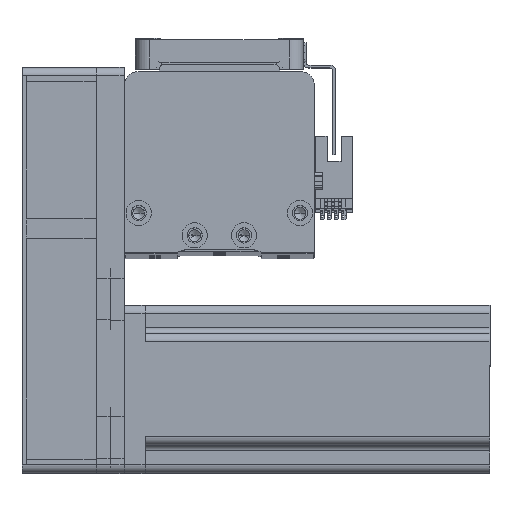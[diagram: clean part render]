
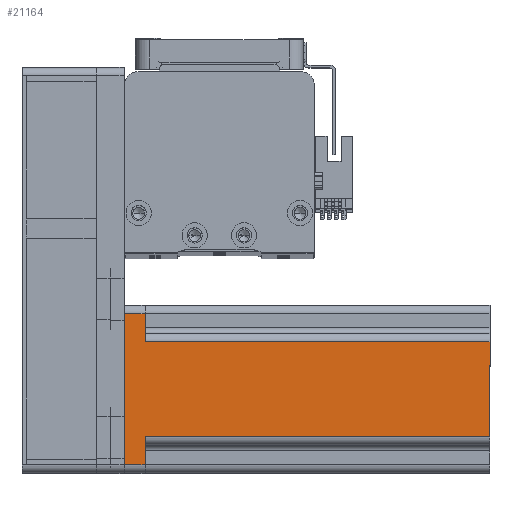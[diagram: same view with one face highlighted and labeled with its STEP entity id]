
A CAD part, top view. The second image highlights one B-rep face of the part: STEP entity #21164.
In plain terms, the highlighted planar face has unit normal (0, 0, 1) as drawn and (0, -1, 0) by its records, which use the part's own axes.
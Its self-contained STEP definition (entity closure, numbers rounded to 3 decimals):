
#1436 = VECTOR ( 'NONE', #1446, 1000. ) ;
#1446 = DIRECTION ( 'NONE',  ( 0., 0., -1. ) ) ;
#1545 = CARTESIAN_POINT ( 'NONE',  ( 17., -30., 130.7 ) ) ;
#2146 = ORIENTED_EDGE ( 'NONE', *, *, #36162, .T. ) ;
#2545 = DIRECTION ( 'NONE',  ( 0., 0., 1. ) ) ;
#3380 = EDGE_CURVE ( 'NONE', #18600, #46877, #11411, .T. ) ;
#4324 = VERTEX_POINT ( 'NONE', #32380 ) ;
#5630 = EDGE_CURVE ( 'NONE', #18600, #11989, #40462, .T. ) ;
#5777 = CARTESIAN_POINT ( 'NONE',  ( -27., -30., 7.5 ) ) ;
#5789 = VERTEX_POINT ( 'NONE', #13343 ) ;
#6695 = EDGE_LOOP ( 'NONE', ( #41665, #48220, #45562, #34044, #24130, #2146, #30839, #33787 ) ) ;
#7748 = CARTESIAN_POINT ( 'NONE',  ( 30., -30., 0. ) ) ;
#8832 = AXIS2_PLACEMENT_3D ( 'NONE', #39345, #16889, #43086 ) ;
#9033 = CARTESIAN_POINT ( 'NONE',  ( 20., -30., 7.5 ) ) ;
#10538 = VECTOR ( 'NONE', #23674, 1000. ) ;
#11411 = LINE ( 'NONE', #23899, #1436 ) ;
#11989 = VERTEX_POINT ( 'NONE', #1545 ) ;
#13343 = CARTESIAN_POINT ( 'NONE',  ( 17., -30., 7.5 ) ) ;
#13587 = LINE ( 'NONE', #37688, #33500 ) ;
#15412 = DIRECTION ( 'NONE',  ( 0., 0., -1. ) ) ;
#15713 = VERTEX_POINT ( 'NONE', #21275 ) ;
#16693 = CARTESIAN_POINT ( 'NONE',  ( -17., -30., 130.7 ) ) ;
#16889 = DIRECTION ( 'NONE',  ( 0., 1., 0. ) ) ;
#17105 = LINE ( 'NONE', #24977, #37028 ) ;
#17413 = VERTEX_POINT ( 'NONE', #5777 ) ;
#18600 = VERTEX_POINT ( 'NONE', #16693 ) ;
#18699 = CARTESIAN_POINT ( 'NONE',  ( -20., -30., 7.5 ) ) ;
#19367 = VECTOR ( 'NONE', #27726, 1000. ) ;
#20272 = EDGE_CURVE ( 'NONE', #46087, #4324, #44195, .T. ) ;
#20521 = LINE ( 'NONE', #9033, #19367 ) ;
#21164 = ADVANCED_FACE ( 'NONE', ( #46508 ), #24232, .F. ) ;
#21275 = CARTESIAN_POINT ( 'NONE',  ( 27., -30., 7.5 ) ) ;
#21892 = EDGE_CURVE ( 'NONE', #5789, #11989, #17105, .T. ) ;
#22446 = DIRECTION ( 'NONE',  ( 1., 0., 0. ) ) ;
#23674 = DIRECTION ( 'NONE',  ( 1., 0., 0. ) ) ;
#23899 = CARTESIAN_POINT ( 'NONE',  ( -17., -30., 130.7 ) ) ;
#24130 = ORIENTED_EDGE ( 'NONE', *, *, #20272, .T. ) ;
#24232 = PLANE ( 'NONE',  #8832 ) ;
#24977 = CARTESIAN_POINT ( 'NONE',  ( 17., -30., 130.7 ) ) ;
#25782 = CARTESIAN_POINT ( 'NONE',  ( 27., -30., 130.7 ) ) ;
#27726 = DIRECTION ( 'NONE',  ( -1., 0., 0. ) ) ;
#30283 = EDGE_CURVE ( 'NONE', #15713, #5789, #20521, .T. ) ;
#30839 = ORIENTED_EDGE ( 'NONE', *, *, #30283, .T. ) ;
#32380 = CARTESIAN_POINT ( 'NONE',  ( 27., -30., 0. ) ) ;
#33500 = VECTOR ( 'NONE', #15412, 1000. ) ;
#33787 = ORIENTED_EDGE ( 'NONE', *, *, #21892, .T. ) ;
#34044 = ORIENTED_EDGE ( 'NONE', *, *, #40282, .T. ) ;
#34220 = VECTOR ( 'NONE', #37926, 1000. ) ;
#36162 = EDGE_CURVE ( 'NONE', #4324, #15713, #48100, .T. ) ;
#36964 = VECTOR ( 'NONE', #40553, 1000. ) ;
#37028 = VECTOR ( 'NONE', #2545, 1000. ) ;
#37688 = CARTESIAN_POINT ( 'NONE',  ( -27., -30., 130.7 ) ) ;
#37926 = DIRECTION ( 'NONE',  ( 1., 0., 0. ) ) ;
#37939 = CARTESIAN_POINT ( 'NONE',  ( -17., -30., 7.5 ) ) ;
#39181 = LINE ( 'NONE', #18699, #44393 ) ;
#39345 = CARTESIAN_POINT ( 'NONE',  ( 30., -30., 130.7 ) ) ;
#40282 = EDGE_CURVE ( 'NONE', #17413, #46087, #13587, .T. ) ;
#40462 = LINE ( 'NONE', #42364, #10538 ) ;
#40553 = DIRECTION ( 'NONE',  ( 0., 0., 1. ) ) ;
#41665 = ORIENTED_EDGE ( 'NONE', *, *, #5630, .F. ) ;
#42364 = CARTESIAN_POINT ( 'NONE',  ( 30., -30., 130.7 ) ) ;
#43086 = DIRECTION ( 'NONE',  ( -1., 0., 0. ) ) ;
#44195 = LINE ( 'NONE', #7748, #34220 ) ;
#44393 = VECTOR ( 'NONE', #22446, 1000. ) ;
#45562 = ORIENTED_EDGE ( 'NONE', *, *, #46153, .F. ) ;
#46087 = VERTEX_POINT ( 'NONE', #48155 ) ;
#46153 = EDGE_CURVE ( 'NONE', #17413, #46877, #39181, .T. ) ;
#46508 = FACE_OUTER_BOUND ( 'NONE', #6695, .T. ) ;
#46877 = VERTEX_POINT ( 'NONE', #37939 ) ;
#48100 = LINE ( 'NONE', #25782, #36964 ) ;
#48155 = CARTESIAN_POINT ( 'NONE',  ( -27., -30., 0. ) ) ;
#48220 = ORIENTED_EDGE ( 'NONE', *, *, #3380, .T. ) ;
